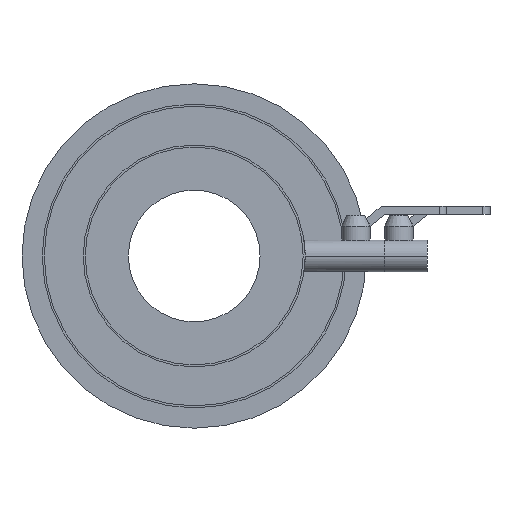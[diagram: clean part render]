
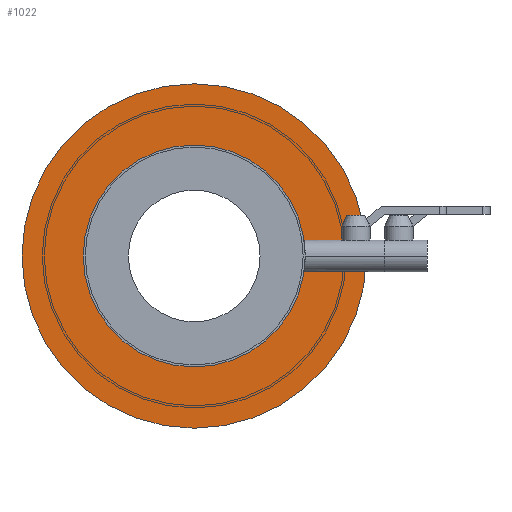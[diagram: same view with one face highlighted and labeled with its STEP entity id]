
A CAD part, left-side view. The second image highlights one B-rep face of the part: STEP entity #1022.
In plain terms, the highlighted planar face has unit normal (-1, 0, 0).
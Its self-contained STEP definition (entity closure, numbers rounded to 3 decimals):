
#291=CARTESIAN_POINT('',(-253.,0.,0.));
#292=DIRECTION('',(-1.,0.,0.));
#293=DIRECTION('',(0.,1.,0.));
#294=AXIS2_PLACEMENT_3D('',#291,#292,#293);
#296=CARTESIAN_POINT('',(-253.,0.,0.));
#297=DIRECTION('',(1.,0.,0.));
#298=DIRECTION('',(0.,1.,0.));
#299=AXIS2_PLACEMENT_3D('',#296,#297,#298);
#301=CARTESIAN_POINT('',(-253.,0.,0.));
#302=DIRECTION('',(1.,0.,0.));
#303=DIRECTION('',(0.,1.,0.));
#304=AXIS2_PLACEMENT_3D('',#301,#302,#303);
#306=CARTESIAN_POINT('',(-253.,0.,0.));
#307=DIRECTION('',(1.,0.,0.));
#308=DIRECTION('',(0.,-1.,0.));
#309=AXIS2_PLACEMENT_3D('',#306,#307,#308);
#654=CARTESIAN_POINT('',(-253.,170.,0.));
#656=VERTEX_POINT('',#654);
#666=CARTESIAN_POINT('',(-253.,-170.,0.));
#668=VERTEX_POINT('',#666);
#731=CARTESIAN_POINT('',(-253.,109.55,0.));
#732=CARTESIAN_POINT('',(-253.,-109.55,0.));
#733=VERTEX_POINT('',#731);
#734=VERTEX_POINT('',#732);
#1007=CARTESIAN_POINT('',(-253.,0.,0.));
#1008=DIRECTION('',(1.,0.,0.));
#1009=DIRECTION('',(0.,-1.,0.));
#1010=AXIS2_PLACEMENT_3D('',#1007,#1008,#1009);
#1011=PLANE('',#1010);
#1012=ORIENTED_EDGE('',*,*,#746,.F.);
#1013=ORIENTED_EDGE('',*,*,#764,.T.);
#1014=EDGE_LOOP('',(#1012,#1013));
#1015=FACE_OUTER_BOUND('',#1014,.F.);
#1017=ORIENTED_EDGE('',*,*,#1016,.F.);
#1019=ORIENTED_EDGE('',*,*,#1018,.F.);
#1020=EDGE_LOOP('',(#1017,#1019));
#1021=FACE_BOUND('',#1020,.F.);
#295=CIRCLE('',#294,170.);
#300=CIRCLE('',#299,170.);
#305=CIRCLE('',#304,109.55);
#310=CIRCLE('',#309,109.55);
#746=EDGE_CURVE('',#656,#668,#295,.T.);
#764=EDGE_CURVE('',#656,#668,#300,.T.);
#1016=EDGE_CURVE('',#733,#734,#305,.T.);
#1018=EDGE_CURVE('',#734,#733,#310,.T.);
#1022=ADVANCED_FACE('',(#1015,#1021),#1011,.F.);
